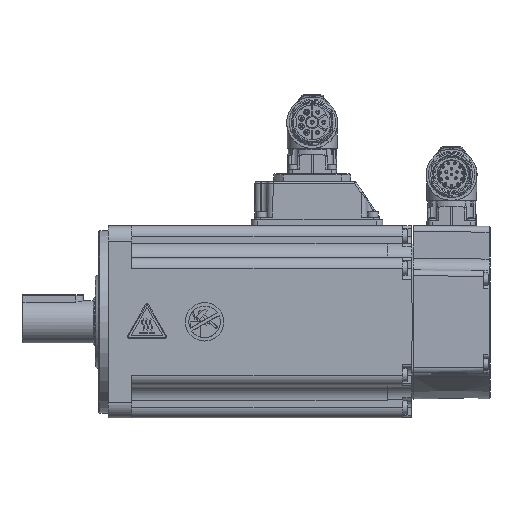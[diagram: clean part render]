
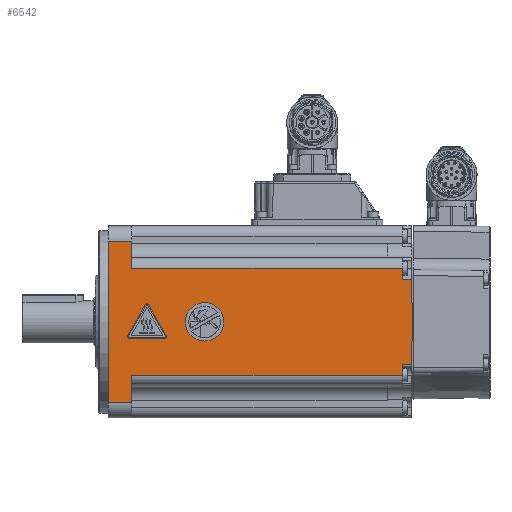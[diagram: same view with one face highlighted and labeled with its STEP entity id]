
A CAD part, front view. The second image highlights one B-rep face of the part: STEP entity #6542.
In plain terms, the highlighted planar face has unit normal (0, -1, 0).
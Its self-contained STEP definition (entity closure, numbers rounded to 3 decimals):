
#6542 = ADVANCED_FACE( '', ( #14223, #14224, #14225 ), #14226, .T. );
#14223 = FACE_BOUND( '', #28165, .T. );
#14224 = FACE_OUTER_BOUND( '', #28166, .T. );
#14225 = FACE_BOUND( '', #28167, .T. );
#14226 = PLANE( '', #28168 );
#28165 = EDGE_LOOP( '', ( #48173 ) );
#28166 = EDGE_LOOP( '', ( #48174, #48175, #48176, #48177, #48178, #48179, #48180, #48181, #48182, #48183, #48184, #48185, #48186 ) );
#28167 = EDGE_LOOP( '', ( #48187, #48188, #48189, #48190, #48191, #48192 ) );
#28168 = AXIS2_PLACEMENT_3D( '', #48193, #48194, #48195 );
#48173 = ORIENTED_EDGE( '', *, *, #58487, .F. );
#48174 = ORIENTED_EDGE( '', *, *, #59172, .T. );
#48175 = ORIENTED_EDGE( '', *, *, #59996, .T. );
#48176 = ORIENTED_EDGE( '', *, *, #55198, .T. );
#48177 = ORIENTED_EDGE( '', *, *, #58290, .T. );
#48178 = ORIENTED_EDGE( '', *, *, #56641, .T. );
#48179 = ORIENTED_EDGE( '', *, *, #55880, .T. );
#48180 = ORIENTED_EDGE( '', *, *, #57362, .T. );
#48181 = ORIENTED_EDGE( '', *, *, #54379, .T. );
#48182 = ORIENTED_EDGE( '', *, *, #61216, .F. );
#48183 = ORIENTED_EDGE( '', *, *, #60556, .T. );
#48184 = ORIENTED_EDGE( '', *, *, #61217, .T. );
#48185 = ORIENTED_EDGE( '', *, *, #55146, .T. );
#48186 = ORIENTED_EDGE( '', *, *, #54902, .F. );
#48187 = ORIENTED_EDGE( '', *, *, #61218, .F. );
#48188 = ORIENTED_EDGE( '', *, *, #60961, .F. );
#48189 = ORIENTED_EDGE( '', *, *, #54995, .F. );
#48190 = ORIENTED_EDGE( '', *, *, #59027, .F. );
#48191 = ORIENTED_EDGE( '', *, *, #61219, .F. );
#48192 = ORIENTED_EDGE( '', *, *, #54646, .F. );
#48193 = CARTESIAN_POINT( '', ( 93.642, -50., -50. ) );
#48194 = DIRECTION( '', ( 0., -1., 0. ) );
#48195 = DIRECTION( '', ( 1., 0., 0. ) );
#54379 = EDGE_CURVE( '', #64227, #64228, #64229, .T. );
#54646 = EDGE_CURVE( 'NONE', #64702, #64703, #64704, .T. );
#54902 = EDGE_CURVE( '', #65135, #65136, #65137, .T. );
#54995 = EDGE_CURVE( 'NONE', #65289, #65290, #65291, .T. );
#55146 = EDGE_CURVE( '', #65560, #65136, #65561, .F. );
#55198 = EDGE_CURVE( '', #65651, #65648, #65652, .F. );
#55880 = EDGE_CURVE( '', #66802, #66799, #66803, .F. );
#56641 = EDGE_CURVE( '', #68006, #66802, #68051, .T. );
#57362 = EDGE_CURVE( '', #66799, #64227, #69168, .T. );
#58290 = EDGE_CURVE( '', #65648, #68006, #70545, .T. );
#58487 = EDGE_CURVE( '', #70834, #70834, #70835, .T. );
#59027 = EDGE_CURVE( 'NONE', #71581, #65289, #71582, .T. );
#59172 = EDGE_CURVE( '', #65135, #71778, #71780, .T. );
#59996 = EDGE_CURVE( '', #71778, #65651, #72876, .T. );
#60556 = EDGE_CURVE( '', #73587, #73585, #73588, .T. );
#60961 = EDGE_CURVE( 'NONE', #65290, #74086, #74087, .T. );
#61216 = EDGE_CURVE( '', #73587, #64228, #74393, .T. );
#61217 = EDGE_CURVE( '', #73585, #65560, #74394, .T. );
#61218 = EDGE_CURVE( 'NONE', #74086, #64702, #74395, .T. );
#61219 = EDGE_CURVE( 'NONE', #64703, #71581, #74396, .T. );
#64227 = VERTEX_POINT( '', #80052 );
#64228 = VERTEX_POINT( '', #80053 );
#64229 = LINE( '', #80054, #80055 );
#64702 = VERTEX_POINT( 'NONE', #81065 );
#64703 = VERTEX_POINT( 'NONE', #81066 );
#64704 = LINE( '', #81067, #81068 );
#65135 = VERTEX_POINT( '', #81940 );
#65136 = VERTEX_POINT( '', #81941 );
#65137 = LINE( '', #81942, #81943 );
#65289 = VERTEX_POINT( 'NONE', #82232 );
#65290 = VERTEX_POINT( 'NONE', #82233 );
#65291 = CIRCLE( '', #82234, 1. );
#65560 = VERTEX_POINT( '', #82750 );
#65561 = LINE( '', #82751, #82752 );
#65648 = VERTEX_POINT( '', #82954 );
#65651 = VERTEX_POINT( '', #82957 );
#65652 = LINE( '', #82958, #82959 );
#66799 = VERTEX_POINT( '', #85046 );
#66802 = VERTEX_POINT( '', #85049 );
#66803 = LINE( '', #85050, #85051 );
#68006 = VERTEX_POINT( '', #87749 );
#68051 = LINE( '', #87807, #87808 );
#69168 = LINE( '', #90197, #90198 );
#70545 = LINE( '', #92859, #92860 );
#70834 = VERTEX_POINT( '', #93559 );
#70835 = CIRCLE( '', #93560, 10. );
#71581 = VERTEX_POINT( '', #95412 );
#71582 = LINE( '', #95413, #95414 );
#71778 = VERTEX_POINT( '', #95871 );
#71780 = LINE( '', #95873, #95874 );
#72876 = LINE( '', #98280, #98281 );
#73585 = VERTEX_POINT( '', #99692 );
#73587 = VERTEX_POINT( '', #99694 );
#73588 = LINE( '', #99695, #99696 );
#74086 = VERTEX_POINT( 'NONE', #100757 );
#74087 = LINE( '', #100758, #100759 );
#74393 = LINE( '', #101298, #101299 );
#74394 = LINE( '', #101300, #101301 );
#74395 = CIRCLE( '', #101302, 1. );
#74396 = CIRCLE( '', #101303, 1. );
#80052 = CARTESIAN_POINT( '', ( -13.25, -50., 27.75 ) );
#80053 = CARTESIAN_POINT( '', ( -154.25, -50., 27.75 ) );
#80054 = CARTESIAN_POINT( '', ( 93.642, -50., 27.75 ) );
#80055 = VECTOR( '', #105016, 1000. );
#81065 = CARTESIAN_POINT( '', ( -155.383, -50., -8.5 ) );
#81066 = CARTESIAN_POINT( '', ( -137.117, -50., -8.5 ) );
#81067 = CARTESIAN_POINT( '', ( -155.383, -50., -8.5 ) );
#81068 = VECTOR( '', #105367, 1000. );
#81940 = CARTESIAN_POINT( '', ( -154.25, -50., -27.75 ) );
#81941 = CARTESIAN_POINT( '', ( -154.25, -50., -42. ) );
#81942 = CARTESIAN_POINT( '', ( -154.25, -50., -50. ) );
#81943 = VECTOR( '', #105671, 1000. );
#82232 = CARTESIAN_POINT( '', ( -145.384, -50., 8.801 ) );
#82233 = CARTESIAN_POINT( '', ( -147.116, -50., 8.801 ) );
#82234 = AXIS2_PLACEMENT_3D( '', #105771, #105772, #105773 );
#82750 = CARTESIAN_POINT( '', ( -166.25, -50., -42. ) );
#82751 = CARTESIAN_POINT( '', ( 93.642, -50., -42. ) );
#82752 = VECTOR( '', #105931, 1000. );
#82954 = CARTESIAN_POINT( '', ( -8.444, -50., -22.25 ) );
#82957 = CARTESIAN_POINT( '', ( -13.25, -50., -22.25 ) );
#82958 = CARTESIAN_POINT( '', ( -8.25, -50., -22.25 ) );
#82959 = VECTOR( '', #105982, 1000. );
#85046 = CARTESIAN_POINT( '', ( -13.25, -50., 22.25 ) );
#85049 = CARTESIAN_POINT( '', ( -8.444, -50., 22.25 ) );
#85050 = CARTESIAN_POINT( '', ( -13.25, -50., 22.25 ) );
#85051 = VECTOR( '', #106838, 1000. );
#87749 = CARTESIAN_POINT( '', ( -8.25, -50., 0. ) );
#87807 = CARTESIAN_POINT( '', ( -8.69, -50., 50.448 ) );
#87808 = VECTOR( '', #107745, 1000. );
#90197 = CARTESIAN_POINT( '', ( -13.25, -50., 50. ) );
#90198 = VECTOR( '', #108662, 1000. );
#92859 = CARTESIAN_POINT( '', ( -7.818, -50., 49.545 ) );
#92860 = VECTOR( '', #109714, 1000. );
#93559 = CARTESIAN_POINT( '', ( -116.25, -50., -10. ) );
#93560 = AXIS2_PLACEMENT_3D( '', #109927, #109928, #109929 );
#95412 = CARTESIAN_POINT( '', ( -136.251, -50., -7. ) );
#95413 = CARTESIAN_POINT( '', ( -145.384, -50., 8.801 ) );
#95414 = VECTOR( '', #110500, 1000. );
#95871 = CARTESIAN_POINT( '', ( -13.25, -50., -27.75 ) );
#95873 = CARTESIAN_POINT( '', ( 93.642, -50., -27.75 ) );
#95874 = VECTOR( '', #110654, 1000. );
#98280 = CARTESIAN_POINT( '', ( -13.25, -50., 50. ) );
#98281 = VECTOR( '', #111501, 1000. );
#99692 = CARTESIAN_POINT( '', ( -166.25, -50., 42. ) );
#99694 = CARTESIAN_POINT( '', ( -154.25, -50., 42. ) );
#99695 = CARTESIAN_POINT( '', ( 93.642, -50., 42. ) );
#99696 = VECTOR( '', #112033, 1000. );
#100757 = CARTESIAN_POINT( '', ( -156.249, -50., -7. ) );
#100758 = CARTESIAN_POINT( '', ( -156.249, -50., -7. ) );
#100759 = VECTOR( '', #112424, 1000. );
#101298 = CARTESIAN_POINT( '', ( -154.25, -50., -50. ) );
#101299 = VECTOR( '', #112653, 1000. );
#101300 = CARTESIAN_POINT( '', ( -166.25, -50., -50. ) );
#101301 = VECTOR( '', #112654, 1000. );
#101302 = AXIS2_PLACEMENT_3D( '', #112655, #112656, #112657 );
#101303 = AXIS2_PLACEMENT_3D( '', #112658, #112659, #112660 );
#105016 = DIRECTION( '', ( -1., 0., 0. ) );
#105367 = DIRECTION( '', ( 1., 0., 0. ) );
#105671 = DIRECTION( '', ( 0., 0., -1. ) );
#105771 = CARTESIAN_POINT( '', ( -146.25, -50., 8.301 ) );
#105772 = DIRECTION( '', ( 0., -1., 0. ) );
#105773 = DIRECTION( '', ( -1., 0., 0. ) );
#105931 = DIRECTION( '', ( -1., 0., 0. ) );
#105982 = DIRECTION( '', ( -1., 0., 0. ) );
#106838 = DIRECTION( '', ( 1., 0., 0. ) );
#107745 = DIRECTION( '', ( -0.009, 0., 1. ) );
#108662 = DIRECTION( '', ( 0., 0., 1. ) );
#109714 = DIRECTION( '', ( 0.009, 0., 1. ) );
#109927 = CARTESIAN_POINT( '', ( -116.25, -50., 0. ) );
#109928 = DIRECTION( '', ( 0., -1., 0. ) );
#109929 = DIRECTION( '', ( 0., 0., -1. ) );
#110500 = DIRECTION( '', ( -0.5, 0., 0.866 ) );
#110654 = DIRECTION( '', ( 1., 0., 0. ) );
#111501 = DIRECTION( '', ( 0., 0., 1. ) );
#112033 = DIRECTION( '', ( -1., 0., 0. ) );
#112424 = DIRECTION( '', ( -0.5, 0., -0.866 ) );
#112653 = DIRECTION( '', ( 0., 0., -1. ) );
#112654 = DIRECTION( '', ( 0., 0., -1. ) );
#112655 = CARTESIAN_POINT( '', ( -155.383, -50., -7.5 ) );
#112656 = DIRECTION( '', ( 0., -1., 0. ) );
#112657 = DIRECTION( '', ( -1., 0., 0. ) );
#112658 = CARTESIAN_POINT( '', ( -137.117, -50., -7.5 ) );
#112659 = DIRECTION( '', ( 0., -1., 0. ) );
#112660 = DIRECTION( '', ( 1., 0., 0. ) );
